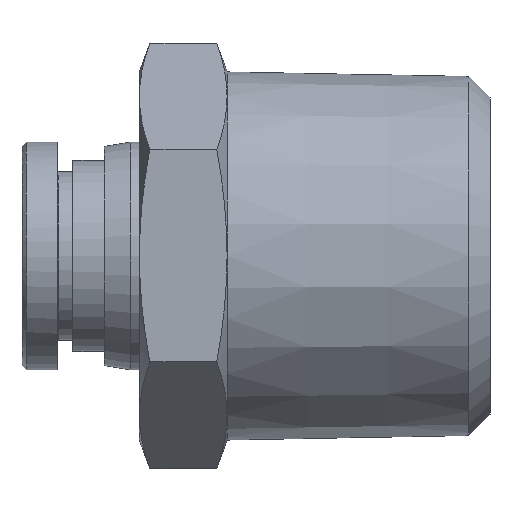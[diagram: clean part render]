
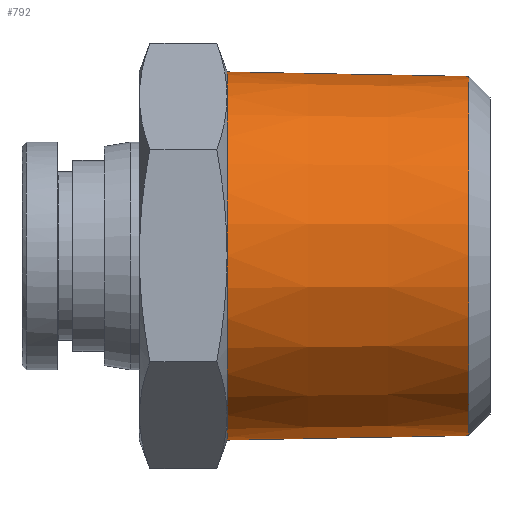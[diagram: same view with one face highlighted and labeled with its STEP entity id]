
A CAD part, top view. The second image highlights one B-rep face of the part: STEP entity #792.
In plain terms, the highlighted conical face has half-angle 1.06 degrees and reference radius 10.361 mm.
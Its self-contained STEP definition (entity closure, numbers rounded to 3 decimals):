
#112=CARTESIAN_POINT('',(7.,-9.093,-5.25));
#113=VERTEX_POINT('',#112);
#129=CARTESIAN_POINT('',(7.,-9.093,5.25));
#130=VERTEX_POINT('',#129);
#131=CARTESIAN_POINT('',(7.,0.0,0.0));
#132=DIRECTION('',(1.0,0.0,0.0));
#133=DIRECTION('',(0.0,1.0,0.0));
#134=AXIS2_PLACEMENT_3D('',#131,#132,#133);
#135=CIRCLE('',#134,10.5);
#136=EDGE_CURVE('',#130,#113,#135,.T.);
#161=CARTESIAN_POINT('',(7.,0.,10.5));
#162=VERTEX_POINT('',#161);
#189=CARTESIAN_POINT('',(7.,0.0,0.0));
#190=DIRECTION('',(1.0,0.0,0.0));
#191=DIRECTION('',(0.0,1.0,0.0));
#192=AXIS2_PLACEMENT_3D('',#189,#190,#191);
#193=CIRCLE('',#192,10.5);
#194=EDGE_CURVE('',#162,#130,#193,.T.);
#204=CARTESIAN_POINT('',(7.,0.,-10.5));
#205=VERTEX_POINT('',#204);
#221=CARTESIAN_POINT('',(7.,0.0,0.0));
#222=DIRECTION('',(1.0,0.0,0.0));
#223=DIRECTION('',(0.0,1.0,0.0));
#224=AXIS2_PLACEMENT_3D('',#221,#222,#223);
#225=CIRCLE('',#224,10.5);
#226=EDGE_CURVE('',#113,#205,#225,.T.);
#251=CARTESIAN_POINT('',(7.,9.093,5.25));
#252=VERTEX_POINT('',#251);
#279=CARTESIAN_POINT('',(7.,0.0,0.0));
#280=DIRECTION('',(1.0,0.0,0.0));
#281=DIRECTION('',(0.0,1.0,0.0));
#282=AXIS2_PLACEMENT_3D('',#279,#280,#281);
#283=CIRCLE('',#282,10.5);
#284=EDGE_CURVE('',#252,#162,#283,.T.);
#294=CARTESIAN_POINT('',(7.,9.093,-5.25));
#295=VERTEX_POINT('',#294);
#311=CARTESIAN_POINT('',(7.,0.0,0.0));
#312=DIRECTION('',(1.0,0.0,0.0));
#313=DIRECTION('',(0.0,1.0,0.0));
#314=AXIS2_PLACEMENT_3D('',#311,#312,#313);
#315=CIRCLE('',#314,10.5);
#316=EDGE_CURVE('',#205,#295,#315,.T.);
#367=CARTESIAN_POINT('',(7.,0.0,0.0));
#368=DIRECTION('',(1.0,0.0,0.0));
#369=DIRECTION('',(0.0,1.0,0.0));
#370=AXIS2_PLACEMENT_3D('',#367,#368,#369);
#371=CIRCLE('',#370,10.5);
#372=EDGE_CURVE('',#295,#252,#371,.T.);
#733=CARTESIAN_POINT('',(20.8,10.245,0.));
#734=VERTEX_POINT('',#733);
#735=CARTESIAN_POINT('',(20.8,0.0,0.));
#736=DIRECTION('',(1.0,0.0,0.0));
#737=DIRECTION('',(0.0,-1.0,0.0));
#738=AXIS2_PLACEMENT_3D('',#735,#736,#737);
#739=CIRCLE('',#738,10.245);
#740=EDGE_CURVE('',#734,#734,#739,.T.);
#776=CARTESIAN_POINT('',(14.5,0.0,0.0));
#777=DIRECTION('',(-1.0,0.0,0.0));
#778=DIRECTION('',(0.0,1.0,0.0));
#779=AXIS2_PLACEMENT_3D('',#776,#777,#778);
#780=CONICAL_SURFACE('',#779,10.361,1.06);
#781=ORIENTED_EDGE('',*,*,#372,.T.);
#782=ORIENTED_EDGE('',*,*,#284,.T.);
#783=ORIENTED_EDGE('',*,*,#194,.T.);
#784=ORIENTED_EDGE('',*,*,#136,.T.);
#785=ORIENTED_EDGE('',*,*,#226,.T.);
#786=ORIENTED_EDGE('',*,*,#316,.T.);
#787=EDGE_LOOP('',(#781,#782,#783,#784,#785,#786));
#788=FACE_OUTER_BOUND('',#787,.T.);
#789=ORIENTED_EDGE('',*,*,#740,.F.);
#790=EDGE_LOOP('',(#789));
#791=FACE_BOUND('',#790,.T.);
#792=ADVANCED_FACE('',(#788,#791),#780,.T.);
